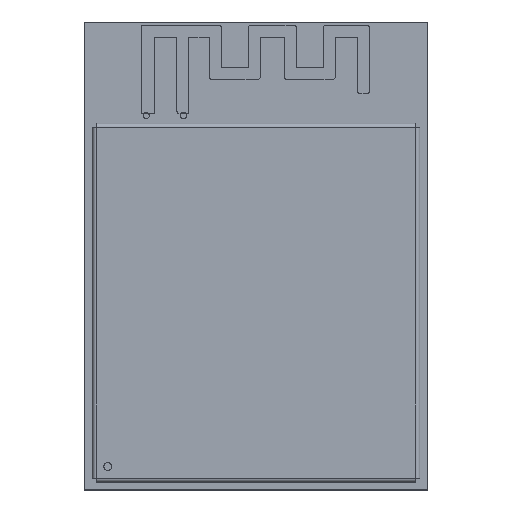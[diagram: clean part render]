
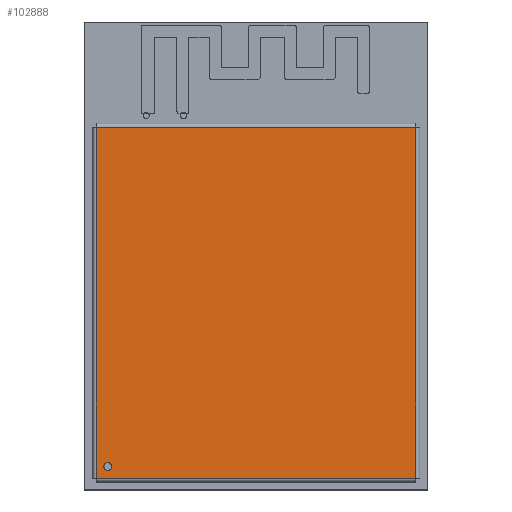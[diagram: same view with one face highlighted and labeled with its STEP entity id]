
A CAD part, top view. The second image highlights one B-rep face of the part: STEP entity #102888.
In plain terms, the highlighted planar face has unit normal (0, 0, 1) as drawn and (0, 1, 0) by its records, which use the part's own axes.
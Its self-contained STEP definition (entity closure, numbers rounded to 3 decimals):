
#1467 = CARTESIAN_POINT ( 'NONE',  ( -5.925, 2.5, -6.675 ) ) ;
#3867 = DIRECTION ( 'NONE',  ( 1., 0., 0. ) ) ;
#4700 = CARTESIAN_POINT ( 'NONE',  ( 0., 2.5, 15.825 ) ) ;
#5440 = CARTESIAN_POINT ( 'NONE',  ( -5.175, 2.5, 15.075 ) ) ;
#5799 = AXIS2_PLACEMENT_3D ( 'NONE', #21053, #96162, #69025 ) ;
#6880 = CARTESIAN_POINT ( 'NONE',  ( -5.925, 2.5, 0. ) ) ;
#9261 = VERTEX_POINT ( 'NONE', #22573 ) ;
#9409 = CARTESIAN_POINT ( 'NONE',  ( 14.575, 2.5, -6.675 ) ) ;
#9767 = AXIS2_PLACEMENT_3D ( 'NONE', #5440, #31025, #57480 ) ;
#11609 = DIRECTION ( 'NONE',  ( 0., 0., 1. ) ) ;
#16865 = VERTEX_POINT ( 'NONE', #1467 ) ;
#21053 = CARTESIAN_POINT ( 'NONE',  ( -5.175, 2.5, 15.075 ) ) ;
#22573 = CARTESIAN_POINT ( 'NONE',  ( -5.925, 2.5, 15.825 ) ) ;
#31025 = DIRECTION ( 'NONE',  ( 0., -1., 0. ) ) ;
#32826 = CARTESIAN_POINT ( 'NONE',  ( -5.175, 2.5, 15.325 ) ) ;
#33381 = VERTEX_POINT ( 'NONE', #9409 ) ;
#35354 = ORIENTED_EDGE ( 'NONE', *, *, #140114, .T. ) ;
#44140 = CIRCLE ( 'NONE', #9767, 0.25 ) ;
#45738 = DIRECTION ( 'NONE',  ( 0., 0., 1. ) ) ;
#49670 = FACE_OUTER_BOUND ( 'NONE', #80711, .T. ) ;
#50501 = FACE_BOUND ( 'NONE', #104450, .T. ) ;
#57480 = DIRECTION ( 'NONE',  ( 0., 0., 1. ) ) ;
#58707 = CARTESIAN_POINT ( 'NONE',  ( 14.575, 2.5, 15.825 ) ) ;
#61235 = CIRCLE ( 'NONE', #5799, 0.25 ) ;
#62030 = PLANE ( 'NONE',  #85925 ) ;
#62920 = EDGE_CURVE ( 'NONE', #83764, #71921, #44140, .T. ) ;
#65741 = ORIENTED_EDGE ( 'NONE', *, *, #125973, .T. ) ;
#68798 = CARTESIAN_POINT ( 'NONE',  ( 0., 2.5, -6.675 ) ) ;
#69025 = DIRECTION ( 'NONE',  ( 0., 0., 1. ) ) ;
#69745 = EDGE_CURVE ( 'NONE', #74851, #33381, #143037, .T. ) ;
#70423 = LINE ( 'NONE', #68798, #110062 ) ;
#71921 = VERTEX_POINT ( 'NONE', #93366 ) ;
#74851 = VERTEX_POINT ( 'NONE', #58707 ) ;
#79180 = ORIENTED_EDGE ( 'NONE', *, *, #79457, .T. ) ;
#79457 = EDGE_CURVE ( 'NONE', #9261, #74851, #140218, .T. ) ;
#79753 = ORIENTED_EDGE ( 'NONE', *, *, #152924, .T. ) ;
#79762 = ORIENTED_EDGE ( 'NONE', *, *, #62920, .T. ) ;
#80711 = EDGE_LOOP ( 'NONE', ( #79180, #158723, #35354, #79753 ) ) ;
#83764 = VERTEX_POINT ( 'NONE', #32826 ) ;
#85925 = AXIS2_PLACEMENT_3D ( 'NONE', #100813, #128047, #11609 ) ;
#93366 = CARTESIAN_POINT ( 'NONE',  ( -5.175, 2.5, 14.825 ) ) ;
#96162 = DIRECTION ( 'NONE',  ( 0., -1., 0. ) ) ;
#100813 = CARTESIAN_POINT ( 'NONE',  ( 0., 2.5, 0. ) ) ;
#102888 = ADVANCED_FACE ( 'NONE', ( #50501, #49670 ), #62030, .T. ) ;
#104450 = EDGE_LOOP ( 'NONE', ( #79762, #65741 ) ) ;
#106325 = VECTOR ( 'NONE', #3867, 1000. ) ;
#106680 = DIRECTION ( 'NONE',  ( -1., 0., 0. ) ) ;
#109577 = VECTOR ( 'NONE', #129845, 1000. ) ;
#110062 = VECTOR ( 'NONE', #106680, 1000. ) ;
#119993 = LINE ( 'NONE', #6880, #148603 ) ;
#125973 = EDGE_CURVE ( 'NONE', #71921, #83764, #61235, .T. ) ;
#128047 = DIRECTION ( 'NONE',  ( 0., 1., 0. ) ) ;
#129845 = DIRECTION ( 'NONE',  ( 0., 0., -1. ) ) ;
#139811 = CARTESIAN_POINT ( 'NONE',  ( 14.575, 2.5, 0. ) ) ;
#140114 = EDGE_CURVE ( 'NONE', #33381, #16865, #70423, .T. ) ;
#140218 = LINE ( 'NONE', #4700, #106325 ) ;
#143037 = LINE ( 'NONE', #139811, #109577 ) ;
#148603 = VECTOR ( 'NONE', #45738, 1000. ) ;
#152924 = EDGE_CURVE ( 'NONE', #16865, #9261, #119993, .T. ) ;
#158723 = ORIENTED_EDGE ( 'NONE', *, *, #69745, .T. ) ;
